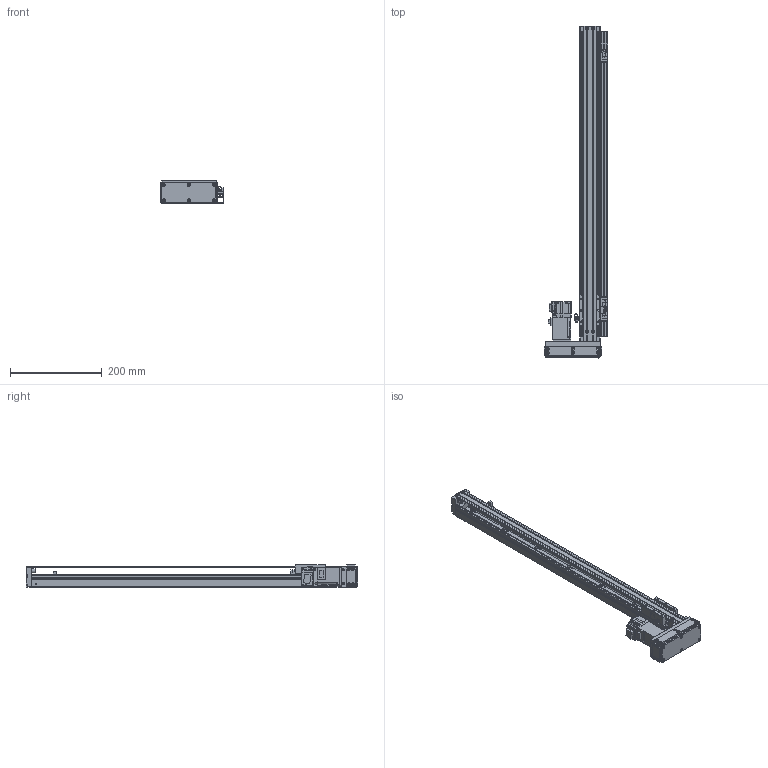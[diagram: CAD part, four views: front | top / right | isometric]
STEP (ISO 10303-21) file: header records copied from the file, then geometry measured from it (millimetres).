
FILE_DESCRIPTION(/* description */ ('MANUFACTURE'),/* implementation_level */ '2;1');
FILE_NAME(/* name */ '\\192.168.0.160\disk1\HAN SHIN Master\B-설계부문\C-표준\B-2024년\BC02-표준도면\+로봇 개선표준도면\표준 승인도 폴더 - 재작업\3D\HG45\병렬-L\HG45-L10-N-0550-R10.stp',/* time_stamp */ '2024-03-05T12:23:35+09:00',/* author */ ('User'),/* organization */ (''),/* preprocessor_version */ 'ST-DEVELOPER v18.1',/* originating_system */ 'Autodesk Inventor 2022',/* authorisation */ 'LIP');
FILE_SCHEMA (('AUTOMOTIVE_DESIGN { 1 0 10303 214 3 1 1 }'));
Products named in the file (21): HG45-L10-N-0500-R10 - 간소화; HR45 S BASE; HR45 REAR BLOCK; HR45 FRONT BLOCK; HR45 STOPPER; HR45 SENSOR RAIL; HR45 SENSOR DOG; HC45 - TABLE (SFSR); HR45 UPCOVER-28mm; NIPPLE CAP(신규); hsr_ftht_A-M6F_grease_nipple_joint; HR45 MOTOR PLATE 100W; HR45 L,R MOTOR PLATE; hg-kr13_; 화살표; HR45 LR BELT COVER; HR45 ACRYL COVER(정면); HR45 ACRYL COVER(측면); HR45 ACRYL COVER(상하면); EE_SX674A; ESF1210 NUT
Assembly tree (27 placements, depth 2):
  HG45-L10-N-0500-R10 - 간소화
    HR45 S BASE
    HR45 REAR BLOCK
    HR45 FRONT BLOCK
    HR45 STOPPER  x4
    HR45 SENSOR RAIL
    HR45 SENSOR DOG
    EE_SX674A  x3
    HC45 - TABLE (SFSR)
    HR45 UPCOVER-28mm
    NIPPLE CAP(신규)
    hsr_ftht_A-M6F_grease_nipple_joint
    HR45 MOTOR PLATE 100W
    HR45 L,R MOTOR PLATE
    hg-kr13_
    화살표  x2
    HR45 LR BELT COVER
    HR45 ACRYL COVER(상하면)  x2
    HR45 ACRYL COVER(정면)
    HR45 ACRYL COVER(측면)
    ESF1210 NUT
Bounding box: 139.5 x 724 x 50 mm (x, y, z)
Volume: 755945 mm3; surface area: 409389 mm2
Topology: 27 solids, 27 shells, 2340 faces, 6406 edges, 4208 vertices
Faces by surface type: plane 1668, cylinder 518, cone 127, bspline 13, sphere 8, torus 6
Full cylindrical faces by diameter (mm): 1 x1, 2.013 x6, 2.459 x74, 2.5 x4, 3 x11, 3.242 x26, 3.4 x36, 3.5 x21, 4 x13, 4.134 x1, 4.5 x20, 4.917 x2, 5.6 x3, 5.9 x2, 6 x20, 6.5 x6, 8 x15, 9 x4, 10 x1, 12 x1, 13 x1, 15 x1, 18 x1, 22 x2, 24 x1, 26 x1, 30 x2
Entity records: 71973 total; most frequent: CARTESIAN_POINT 14049, ORIENTED_EDGE 11932, DIRECTION 11372, EDGE_CURVE 5966, LINE 4690, VECTOR 4690, VERTEX_POINT 3961, AXIS2_PLACEMENT_3D 3341
